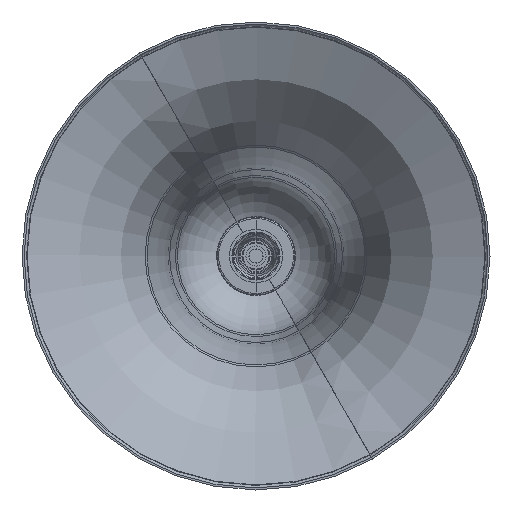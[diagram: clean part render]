
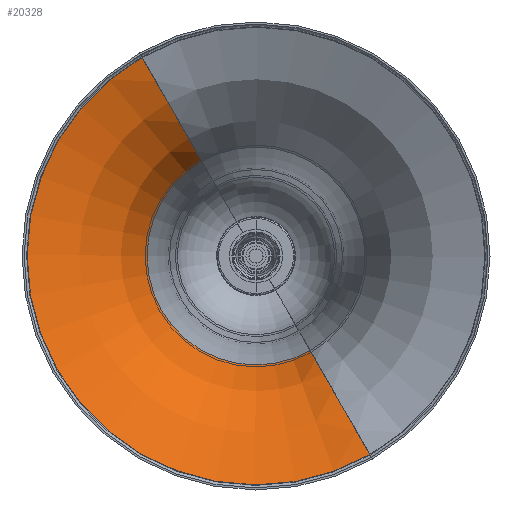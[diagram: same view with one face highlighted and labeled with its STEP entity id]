
A CAD part, front view. The second image highlights one B-rep face of the part: STEP entity #20328.
In plain terms, the highlighted toroidal (fillet/blend) face has major radius 133.343 mm and minor radius 83 mm.
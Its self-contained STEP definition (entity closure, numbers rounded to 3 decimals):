
#1160 = CARTESIAN_POINT ( 'NONE',  ( -113.967, 3.445, 0. ) ) ;
#1804 = CIRCLE ( 'NONE', #14249, 83. ) ;
#1940 = ORIENTED_EDGE ( 'NONE', *, *, #16635, .F. ) ;
#2393 = EDGE_LOOP ( 'NONE', ( #15940, #4691, #13853, #1940 ) ) ;
#2733 = TOROIDAL_SURFACE ( 'NONE', #20273, 133.343, 83. ) ;
#3505 = CARTESIAN_POINT ( 'NONE',  ( -54.252, 58.978, 0. ) ) ;
#3668 = VERTEX_POINT ( 'NONE', #1160 ) ;
#3685 = CARTESIAN_POINT ( 'NONE',  ( 54.252, 58.978, 0. ) ) ;
#4691 = ORIENTED_EDGE ( 'NONE', *, *, #13295, .T. ) ;
#7986 = DIRECTION ( 'NONE',  ( -1., 0., 0. ) ) ;
#7993 = DIRECTION ( 'NONE',  ( 0., 1., 0. ) ) ;
#8108 = DIRECTION ( 'NONE',  ( 0., 0., -1. ) ) ;
#8221 = AXIS2_PLACEMENT_3D ( 'NONE', #26324, #7993, #20290 ) ;
#9866 = CARTESIAN_POINT ( 'NONE',  ( 133.343, 84.151, 0. ) ) ;
#9939 = VERTEX_POINT ( 'NONE', #3685 ) ;
#9998 = DIRECTION ( 'NONE',  ( 1., 0., 0. ) ) ;
#10021 = DIRECTION ( 'NONE',  ( 0., 1., 0. ) ) ;
#12497 = CIRCLE ( 'NONE', #8221, 54.252 ) ;
#12534 = AXIS2_PLACEMENT_3D ( 'NONE', #14291, #10021, #14025 ) ;
#13295 = EDGE_CURVE ( 'NONE', #9939, #22247, #12497, .T. ) ;
#13731 = CARTESIAN_POINT ( 'NONE',  ( 0., 84.151, 0. ) ) ;
#13742 = DIRECTION ( 'NONE',  ( 0., 0., 1. ) ) ;
#13853 = ORIENTED_EDGE ( 'NONE', *, *, #24634, .T. ) ;
#14025 = DIRECTION ( 'NONE',  ( -1., 0., 0. ) ) ;
#14249 = AXIS2_PLACEMENT_3D ( 'NONE', #9866, #13742, #9998 ) ;
#14291 = CARTESIAN_POINT ( 'NONE',  ( 0., 3.445, 0. ) ) ;
#15305 = EDGE_CURVE ( 'NONE', #9939, #23321, #1804, .T. ) ;
#15940 = ORIENTED_EDGE ( 'NONE', *, *, #15305, .F. ) ;
#15984 = CARTESIAN_POINT ( 'NONE',  ( -133.343, 84.151, 0. ) ) ;
#16635 = EDGE_CURVE ( 'NONE', #23321, #3668, #24071, .T. ) ;
#18120 = DIRECTION ( 'NONE',  ( 0., 1., 0. ) ) ;
#18858 = CARTESIAN_POINT ( 'NONE',  ( 113.967, 3.445, 0. ) ) ;
#19621 = FACE_OUTER_BOUND ( 'NONE', #2393, .T. ) ;
#20273 = AXIS2_PLACEMENT_3D ( 'NONE', #13731, #18120, #20414 ) ;
#20290 = DIRECTION ( 'NONE',  ( -1., 0., 0. ) ) ;
#20328 = ADVANCED_FACE ( 'NONE', ( #19621 ), #2733, .T. ) ;
#20414 = DIRECTION ( 'NONE',  ( -1., 0., 0. ) ) ;
#21177 = AXIS2_PLACEMENT_3D ( 'NONE', #15984, #8108, #7986 ) ;
#22247 = VERTEX_POINT ( 'NONE', #3505 ) ;
#23321 = VERTEX_POINT ( 'NONE', #18858 ) ;
#24071 = CIRCLE ( 'NONE', #12534, 113.967 ) ;
#24597 = CIRCLE ( 'NONE', #21177, 83. ) ;
#24634 = EDGE_CURVE ( 'NONE', #22247, #3668, #24597, .T. ) ;
#26324 = CARTESIAN_POINT ( 'NONE',  ( 0., 58.978, 0. ) ) ;
